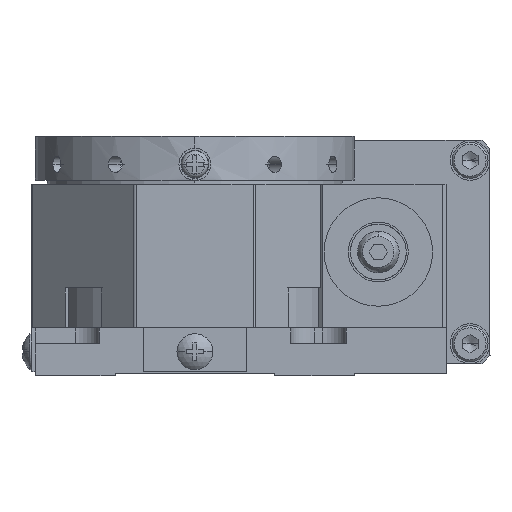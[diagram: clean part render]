
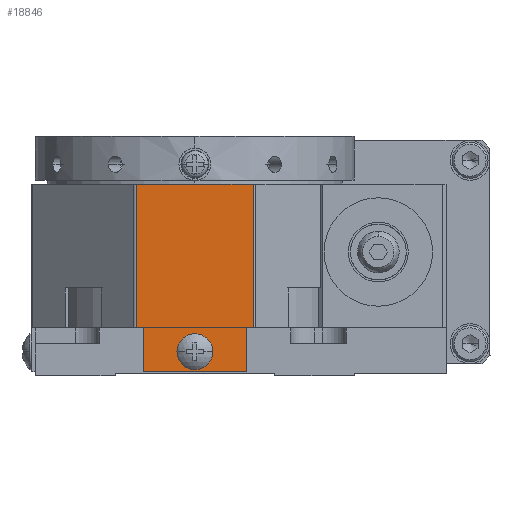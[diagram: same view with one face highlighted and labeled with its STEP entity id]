
A CAD part, left-side view. The second image highlights one B-rep face of the part: STEP entity #18846.
In plain terms, the highlighted planar face has unit normal (-1, 0, 0).
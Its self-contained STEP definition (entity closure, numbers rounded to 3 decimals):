
#1175 = AXIS2_PLACEMENT_3D ( 'NONE', #47275, #25242, #36755 ) ;
#2731 = VECTOR ( 'NONE', #27920, 1000. ) ;
#3490 = VECTOR ( 'NONE', #44693, 1000. ) ;
#3571 = DIRECTION ( 'NONE',  ( 0., 1., 0. ) ) ;
#3892 = CARTESIAN_POINT ( 'NONE',  ( -20.5, 7.293, 23.5 ) ) ;
#4391 = CARTESIAN_POINT ( 'NONE',  ( -20.5, -6.5, 2.755 ) ) ;
#5519 = ORIENTED_EDGE ( 'NONE', *, *, #6157, .F. ) ;
#6133 = VERTEX_POINT ( 'NONE', #26440 ) ;
#6157 = EDGE_CURVE ( 'NONE', #12947, #14717, #43217, .T. ) ;
#7492 = VERTEX_POINT ( 'NONE', #10142 ) ;
#8130 = DIRECTION ( 'NONE',  ( 0., 0., -1. ) ) ;
#8671 = AXIS2_PLACEMENT_3D ( 'NONE', #30832, #38258, #37946 ) ;
#9895 = VERTEX_POINT ( 'NONE', #46433 ) ;
#10050 = CARTESIAN_POINT ( 'NONE',  ( -20.5, 6.5, 2.755 ) ) ;
#10142 = CARTESIAN_POINT ( 'NONE',  ( -20.5, -7.293, 5.51 ) ) ;
#10414 = ORIENTED_EDGE ( 'NONE', *, *, #32068, .F. ) ;
#10608 = DIRECTION ( 'NONE',  ( 0., -1., 0. ) ) ;
#12366 = EDGE_CURVE ( 'NONE', #37244, #44213, #28649, .T. ) ;
#12709 = CARTESIAN_POINT ( 'NONE',  ( -20.5, 7.293, 5.51 ) ) ;
#12947 = VERTEX_POINT ( 'NONE', #28331 ) ;
#13150 = CARTESIAN_POINT ( 'NONE',  ( -20.5, 0., 0. ) ) ;
#13947 = ORIENTED_EDGE ( 'NONE', *, *, #22575, .T. ) ;
#14403 = ORIENTED_EDGE ( 'NONE', *, *, #12366, .T. ) ;
#14677 = EDGE_LOOP ( 'NONE', ( #35724, #22239 ) ) ;
#14717 = VERTEX_POINT ( 'NONE', #37726 ) ;
#17422 = VECTOR ( 'NONE', #47331, 1000. ) ;
#18325 = DIRECTION ( 'NONE',  ( -1., 0., 0. ) ) ;
#18534 = VERTEX_POINT ( 'NONE', #38293 ) ;
#18535 = CARTESIAN_POINT ( 'NONE',  ( -20.5, 7.293, 5.51 ) ) ;
#18720 = VECTOR ( 'NONE', #24441, 1000. ) ;
#18846 = ADVANCED_FACE ( 'NONE', ( #44981, #32847 ), #45069, .T. ) ;
#19170 = LINE ( 'NONE', #45959, #3490 ) ;
#20113 = EDGE_CURVE ( 'NONE', #7492, #26083, #34429, .T. ) ;
#21226 = DIRECTION ( 'NONE',  ( 0., 0., 1. ) ) ;
#21392 = VECTOR ( 'NONE', #10608, 1000. ) ;
#22239 = ORIENTED_EDGE ( 'NONE', *, *, #36444, .F. ) ;
#22575 = EDGE_CURVE ( 'NONE', #44213, #18534, #19170, .T. ) ;
#22817 = VECTOR ( 'NONE', #42690, 1000. ) ;
#22993 = ORIENTED_EDGE ( 'NONE', *, *, #39714, .T. ) ;
#23045 = EDGE_LOOP ( 'NONE', ( #22993, #42440, #24517, #14403, #13947, #10414, #42736, #5519 ) ) ;
#23300 = CIRCLE ( 'NONE', #1175, 2.25 ) ;
#23339 = LINE ( 'NONE', #23796, #18720 ) ;
#23719 = LINE ( 'NONE', #39792, #21392 ) ;
#23796 = CARTESIAN_POINT ( 'NONE',  ( -20.5, 7.5, 5.51 ) ) ;
#24441 = DIRECTION ( 'NONE',  ( 0., -1., 0. ) ) ;
#24517 = ORIENTED_EDGE ( 'NONE', *, *, #35204, .F. ) ;
#25242 = DIRECTION ( 'NONE',  ( -1., 0., 0. ) ) ;
#25863 = VECTOR ( 'NONE', #8130, 1000. ) ;
#26083 = VERTEX_POINT ( 'NONE', #44231 ) ;
#26440 = CARTESIAN_POINT ( 'NONE',  ( -20.5, -2.25, 2.5 ) ) ;
#26501 = LINE ( 'NONE', #13150, #2731 ) ;
#27789 = EDGE_CURVE ( 'NONE', #45670, #6133, #23300, .T. ) ;
#27920 = DIRECTION ( 'NONE',  ( 0., 1., 0. ) ) ;
#28331 = CARTESIAN_POINT ( 'NONE',  ( -20.5, -6.5, 5.51 ) ) ;
#28571 = EDGE_CURVE ( 'NONE', #14717, #9895, #26501, .T. ) ;
#28649 = LINE ( 'NONE', #12709, #22817 ) ;
#29826 = CARTESIAN_POINT ( 'NONE',  ( -20.5, 0., 2.5 ) ) ;
#30832 = CARTESIAN_POINT ( 'NONE',  ( -20.5, 7.5, 5.51 ) ) ;
#32068 = EDGE_CURVE ( 'NONE', #9895, #18534, #40080, .T. ) ;
#32453 = CARTESIAN_POINT ( 'NONE',  ( -20.5, -7.293, 5.51 ) ) ;
#32825 = CARTESIAN_POINT ( 'NONE',  ( -20.5, 2.25, 2.5 ) ) ;
#32847 = FACE_OUTER_BOUND ( 'NONE', #23045, .T. ) ;
#34365 = AXIS2_PLACEMENT_3D ( 'NONE', #29826, #18325, #3571 ) ;
#34429 = LINE ( 'NONE', #32453, #39638 ) ;
#35204 = EDGE_CURVE ( 'NONE', #37244, #26083, #23719, .T. ) ;
#35724 = ORIENTED_EDGE ( 'NONE', *, *, #27789, .F. ) ;
#36444 = EDGE_CURVE ( 'NONE', #6133, #45670, #41611, .T. ) ;
#36755 = DIRECTION ( 'NONE',  ( 0., 1., 0. ) ) ;
#37244 = VERTEX_POINT ( 'NONE', #3892 ) ;
#37726 = CARTESIAN_POINT ( 'NONE',  ( -20.5, -6.5, 0. ) ) ;
#37946 = DIRECTION ( 'NONE',  ( 0., 0., -1. ) ) ;
#38258 = DIRECTION ( 'NONE',  ( -1., 0., 0. ) ) ;
#38293 = CARTESIAN_POINT ( 'NONE',  ( -20.5, 6.5, 5.51 ) ) ;
#39638 = VECTOR ( 'NONE', #21226, 1000. ) ;
#39714 = EDGE_CURVE ( 'NONE', #12947, #7492, #23339, .T. ) ;
#39792 = CARTESIAN_POINT ( 'NONE',  ( -20.5, 7.5, 23.5 ) ) ;
#40080 = LINE ( 'NONE', #10050, #17422 ) ;
#41611 = CIRCLE ( 'NONE', #34365, 2.25 ) ;
#42440 = ORIENTED_EDGE ( 'NONE', *, *, #20113, .T. ) ;
#42690 = DIRECTION ( 'NONE',  ( 0., 0., -1. ) ) ;
#42736 = ORIENTED_EDGE ( 'NONE', *, *, #28571, .F. ) ;
#43217 = LINE ( 'NONE', #4391, #25863 ) ;
#44213 = VERTEX_POINT ( 'NONE', #18535 ) ;
#44231 = CARTESIAN_POINT ( 'NONE',  ( -20.5, -7.293, 23.5 ) ) ;
#44693 = DIRECTION ( 'NONE',  ( 0., -1., 0. ) ) ;
#44981 = FACE_BOUND ( 'NONE', #14677, .T. ) ;
#45069 = PLANE ( 'NONE',  #8671 ) ;
#45670 = VERTEX_POINT ( 'NONE', #32825 ) ;
#45959 = CARTESIAN_POINT ( 'NONE',  ( -20.5, 7.5, 5.51 ) ) ;
#46433 = CARTESIAN_POINT ( 'NONE',  ( -20.5, 6.5, 0. ) ) ;
#47275 = CARTESIAN_POINT ( 'NONE',  ( -20.5, 0., 2.5 ) ) ;
#47331 = DIRECTION ( 'NONE',  ( 0., 0., 1. ) ) ;
